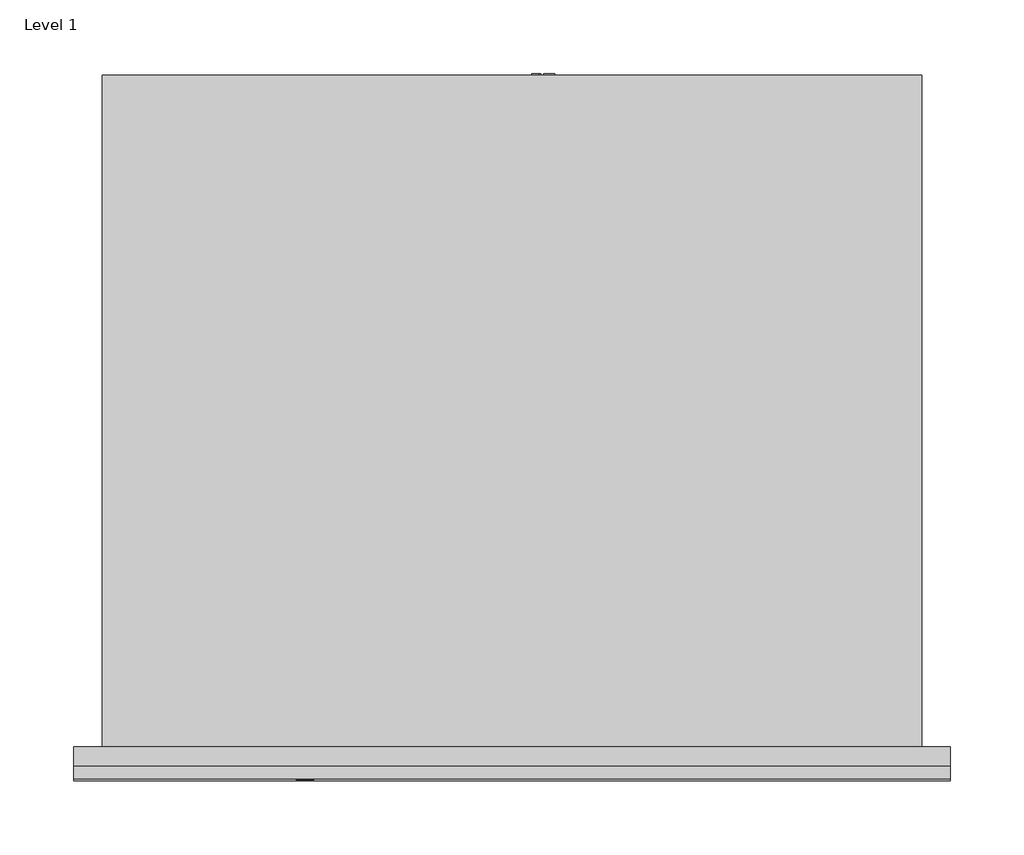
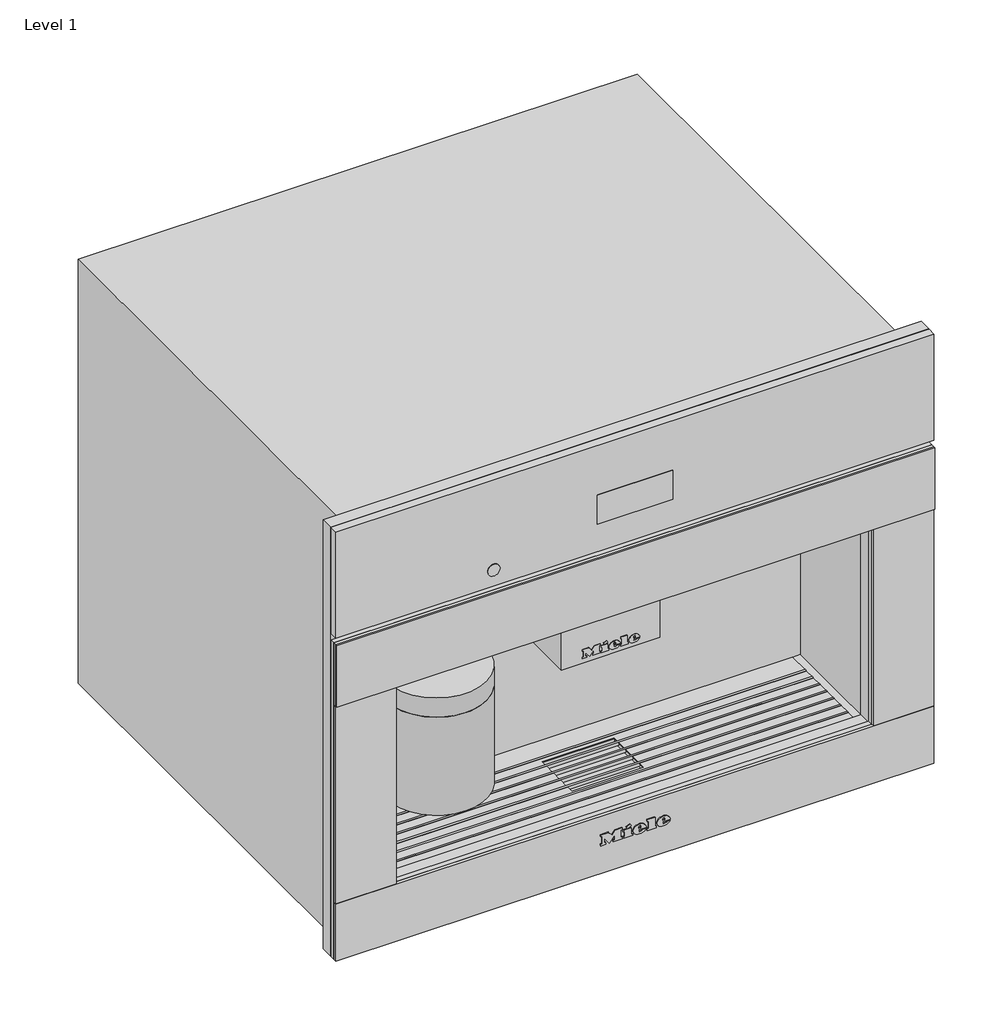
# One storey: 1 proxy.
"""IFC4 building model written with IfcOpenShell, lengths in millimetres."""

from ifc_helpers import new_model, si_unit, origin, place, context, project, spatial, transform, mapped, element, save
from components import specialty_equipment_b0fdc394

model = new_model("IFC4")

# Units and contexts
model_context = context("Model", 3, world=origin())
ifc_project = project(units=[si_unit("LENGTHUNIT", "METRE", prefix="MILLI")], contexts=[model_context])

# Site, building, storey
site = spatial("IfcSite", under=ifc_project)
building = spatial("IfcBuilding", under=site)
storey = spatial("IfcBuildingStorey", under=building, Name="Level 1", Elevation=0.0)

# Proxy
placement = place(None, origin())
specialty_equipment_shape = specialty_equipment_b0fdc394(model_context)
element("IfcBuildingElementProxy", 1, Name="11733930_CDN_CVA7440_EDST-CLST : 29744040_CDN_11733930_CVA7440_EDST-CLST", ObjectType="11733930_CDN_CVA7440_EDST-CLST : 29744040_CDN_11733930_CVA7440_EDST-CLST", at=placement, inside=storey, context=model_context, shape_type="MappedRepresentation", body=[
    mapped(specialty_equipment_shape, transform((0.0, 0.0, 0.0), x_axis=(1.0, 0.0, 0.0), y_axis=(0.0, 1.0, 0.0), z_axis=(0.0, 0.0, 1.0))),
])

save(model, "model.ifc")
